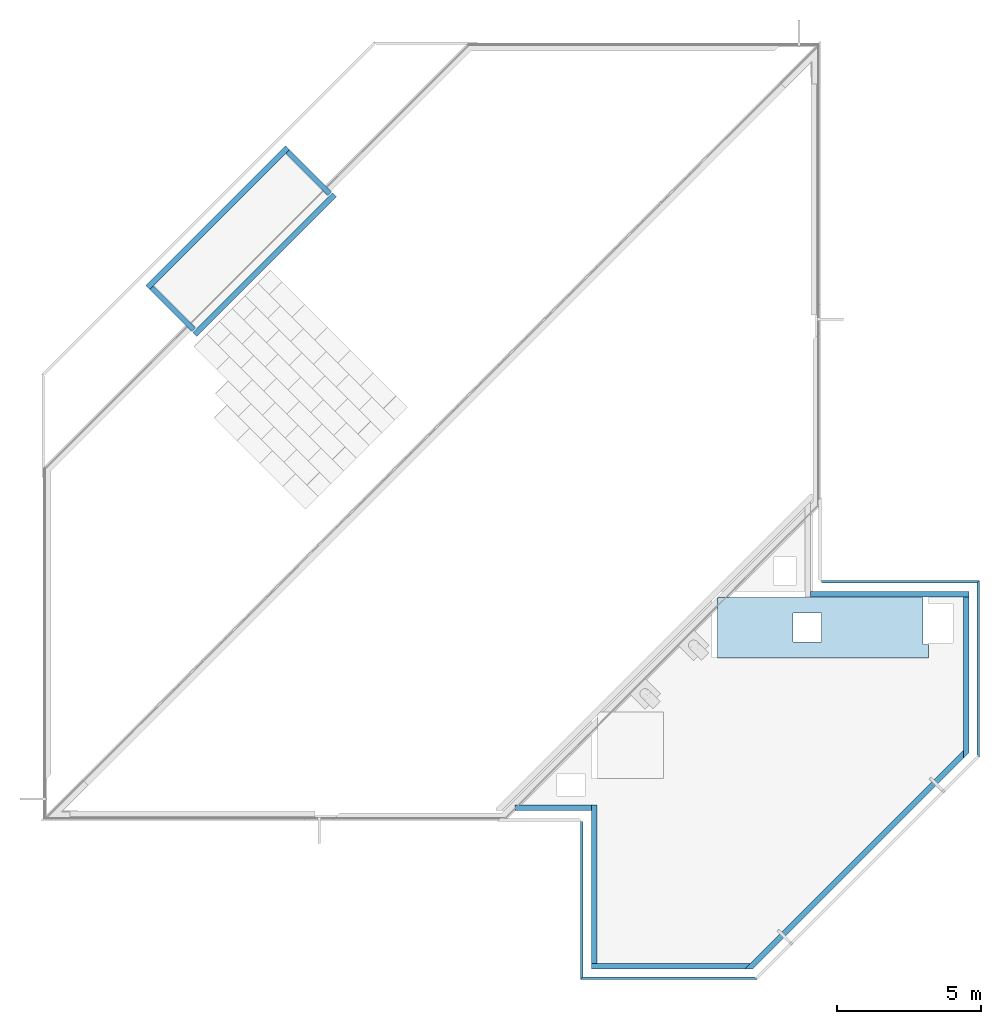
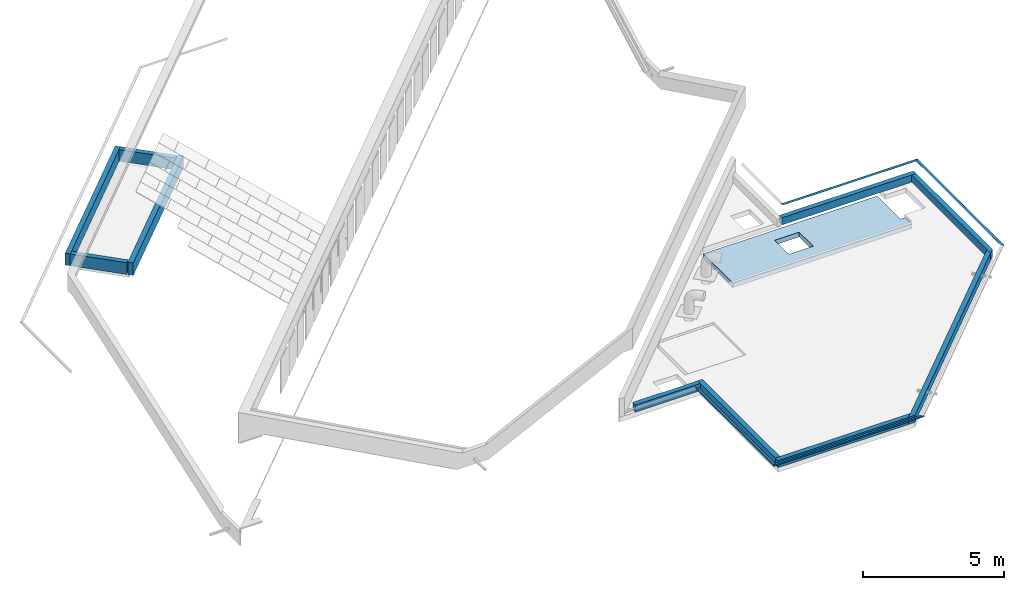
# One storey, part 3 of 8: 10 walls, 4 discrete accessories, 1 slab.
"""IFC4X3_ADD2 building model written with IfcOpenShell, lengths in millimetres."""

from ifc_helpers import new_model, si_unit, direction, frame, frame_2d, origin_with_axes, origin_2d_with_axis, place, context, subcontext, project, spatial, polyline, rectangle, outline, extrude, faceted_brep, polygons, source, transform, mapped, material, type_object, element, save


model = new_model("IFC4X3_ADD2")

# Units and contexts
model_context = context("Model", 3, precision=1e-05, world=origin_with_axes(), true_north=direction((0.0, 1.0)))
body_context = subcontext(model_context, "Body", "Model", "MODEL_VIEW")
ifc_project = project(units=[si_unit("LENGTHUNIT", "METRE", prefix="MILLI"), si_unit("AREAUNIT", "SQUARE_METRE"), si_unit("VOLUMEUNIT", "CUBIC_METRE"), si_unit("PLANEANGLEUNIT", "RADIAN"), si_unit("TIMEUNIT", "SECOND"), si_unit("MASSUNIT", "GRAM")], contexts=[model_context])

# Site, building, storey
site_placement = place(None, origin_with_axes())
site = spatial("IfcSite", under=ifc_project, at=site_placement, Name="Site", CompositionType="ELEMENT")
building_placement = place(site_placement, origin_with_axes())
building = spatial("IfcBuilding", under=site, at=building_placement, Name="IFC Building Story")
storey_placement = place(building_placement, frame((0.0, 0.0, 17050.0), z_axis=(0.0, 0.0, 1.0), x_axis=(1.0, 0.0, 0.0)))
storey = spatial("IfcBuildingStorey", under=building, at=storey_placement, Name="050", Elevation=17050.0)

# Slab
ifc_material_1 = material(Name="BB_Beton_Bestaand")
slab_type = type_object("IfcSlabType", Name="BB_Beton_Bestaand 200", PredefinedType="FLOOR", material=ifc_material_1)
slab_placement = place(storey_placement, frame((-15724.99999999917, 17799.99999999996, -350.0), z_axis=(0.0, 0.0, 1.0), x_axis=(1.0, 0.0, 0.0)))
element("IfcSlab", 1, at=slab_placement, inside=storey, type_object=slab_type, Name="Floor:BB_XX_Vloer uit beton, 200 mm", ObjectType="Floor:BB_XX_Vloer uit beton, 200 mm", PredefinedType="FLOOR", context=body_context, shape_type="Brep", body=[
    faceted_brep([(0.0, -3.979039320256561e-12, 200.0), (4.547473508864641e-12, 2099.99999999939, 200.0), (4.547473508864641e-12, 2099.99999999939, 0.0), (0.0, 0.0, 0.0), (7125.000000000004, 2099.999999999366, 200.0), (7125.000000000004, 2099.999999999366, 0.0), (7125.0, 460.0000000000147, 200.0), (7125.0, 460.0000000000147, 0.0), (7325.0, 460.0000000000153, 200.0), (7325.0, 460.0000000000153, 0.0), (7325.0, -1.70530256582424e-12, 200.0), (7325.0, -1.70530256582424e-12, 0.0), (3610.000000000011, 549.9999999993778, 200.0), (3610.000000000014, 1549.999999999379, 200.0), (3610.000000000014, 1549.999999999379, 0.0), (3610.000000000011, 549.9999999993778, 0.0), (2610.000000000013, 1549.999999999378, 200.0), (2610.000000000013, 1549.999999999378, 0.0), (2610.000000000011, 549.9999999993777, 200.0), (2610.000000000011, 549.9999999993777, 0.0)], [[[0, 1, 2, 3]], [[1, 4, 5, 2]], [[4, 6, 7, 5]], [[6, 8, 9, 7]], [[8, 10, 11, 9]], [[10, 0, 3, 11]], [[12, 13, 14, 15]], [[13, 16, 17, 14]], [[16, 18, 19, 17]], [[18, 12, 15, 19]], [[13, 12, 18, 16], [1, 0, 10, 8, 6, 4]], [[19, 15, 14, 17], [11, 3, 2, 5, 7, 9]]], outer=[[True], [True], [True], [True], [True], [True], [True], [True], [True], [True], [False, True], [False, True]]),
])

# Walls
wall_type_1 = type_object("IfcWallType", Name="BB_Beton_Bestaand 200", PredefinedType="NOTDEFINED", material=ifc_material_1)
wall_1_placement = place(storey_placement, origin_with_axes())
element("IfcWall", 2, at=wall_1_placement, inside=storey, type_object=wall_type_1, Name="Basic Wall:BB_XX_Wand uit beton, 200 mm", ObjectType="Basic Wall:BB_XX_Wand uit beton, 200 mm", PredefinedType="SOLIDWALL", context=body_context, shape_type="SweptSolid", body=[
    extrude(rectangle(XDim=6870.000000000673, YDim=199.9999999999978, at=frame_2d((0.0, 0.0), x_axis=(0.7071067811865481, 0.7071067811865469))), frame((-31450.86219713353, 31450.86219713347, -250.0), z_axis=(0.0, 0.0, 1.0), x_axis=(1.0, 0.0, 0.0)), (0.0, 0.0, 1.0), 539.9999999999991),
])
ifc_material_2 = material(Name="BB_Metselwerk_Betonsteen")
wall_type_2 = type_object("IfcWallType", Name="BB_Metselwerk_Betonsteen 190", PredefinedType="NOTDEFINED", material=ifc_material_2)
wall_2_placement = place(storey_placement, origin_with_axes())
element("IfcWall", 3, at=wall_2_placement, inside=storey, type_object=wall_type_2, Name="Basic Wall:BB_03.09.24#03_Wand uit metselwerk, 190 mm", ObjectType="Basic Wall:BB_03.09.24#03_Wand uit metselwerk, 190 mm", PredefinedType="SOLIDWALL", context=body_context, shape_type="SweptSolid", body=[
    extrude(rectangle(XDim=6870.000000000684, YDim=190.0000000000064, at=frame_2d((0.0, 0.0), x_axis=(0.7071067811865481, 0.7071067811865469))), frame((-33080.74332776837, 33080.74332776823, -250.0), z_axis=(0.0, 0.0, 1.0), x_axis=(1.0, 0.0, 0.0)), (0.0, 0.0, 1.0), 510.000000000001),
])
wall_3_placement = place(storey_placement, origin_with_axes())
element("IfcWall", 4, at=wall_3_placement, inside=storey, type_object=wall_type_2, Name="Basic Wall:BB_03.09.24#03_Wand uit metselwerk, 190 mm", ObjectType="Basic Wall:BB_03.09.24#03_Wand uit metselwerk, 190 mm", PredefinedType="SOLIDWALL", context=body_context, shape_type="SweptSolid", body=[
    extrude(rectangle(XDim=5500.004065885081, YDim=190.0, at=origin_2d_with_axis()), frame((-9750.00203294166, 20005.0, -50.0), z_axis=(0.0, 0.0, 1.0), x_axis=(1.0, 0.0, 0.0)), (0.0, 0.0, 1.0), 309.999999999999),
])
wall_4_placement = place(storey_placement, origin_with_axes())
element("IfcWall", 5, at=wall_4_placement, inside=storey, type_object=wall_type_2, Name="Basic Wall:BB_03.09.24#03_Wand uit metselwerk, 190 mm", ObjectType="Basic Wall:BB_03.09.24#03_Wand uit metselwerk, 190 mm", PredefinedType="SOLIDWALL", context=body_context, shape_type="SweptSolid", body=[
    extrude(outline(polyline([(-95.0, -2842.499999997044), (-95.0, 2747.499999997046), (95.0, 2747.499999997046), (95.0, -2652.499999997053), (-95.0, -2842.499999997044)])), frame((-7095.0, 17162.50000000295, -50.0), z_axis=(0.0, 0.0, 1.0), x_axis=(1.0, 0.0, 0.0)), (0.0, 0.0, 1.0), 309.999999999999),
])
wall_5_placement = place(storey_placement, origin_with_axes())
element("IfcWall", 6, at=wall_5_placement, inside=storey, type_object=wall_type_2, Name="Basic Wall:BB_03.09.24#03_Wand uit metselwerk, 190 mm", ObjectType="Basic Wall:BB_03.09.24#03_Wand uit metselwerk, 190 mm", PredefinedType="SOLIDWALL", context=body_context, shape_type="SweptSolid", body=[
    extrude(outline(polyline([(-3861.525432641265, -3727.175144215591), (3727.175144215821, 3861.525432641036), (3727.175144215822, 3592.824855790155), (-3592.824855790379, -3727.175144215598), (-3861.525432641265, -3727.175144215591)])), frame((-10917.17514421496, 10727.17514421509, -50.0), z_axis=(0.0, 0.0, 1.0), x_axis=(1.0, 0.0, 0.0)), (0.0, 0.0, 1.0), 309.999999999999),
])
wall_6_placement = place(storey_placement, origin_with_axes())
element("IfcWall", 7, at=wall_6_placement, inside=storey, type_object=wall_type_2, Name="Basic Wall:BB_03.09.24#03_Wand uit metselwerk, 190 mm", ObjectType="Basic Wall:BB_03.09.24#03_Wand uit metselwerk, 190 mm", PredefinedType="SOLIDWALL", context=body_context, shape_type="SweptSolid", body=[
    extrude(outline(polyline([(-2713.14971157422, 95.0), (2808.149711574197, 95.0), (2618.149711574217, -95.0), (-2713.149711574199, -95.0), (-2713.14971157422, 95.0)])), frame((-17396.8502884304, 7095.0, -50.0), z_axis=(0.0, 0.0, 1.0), x_axis=(1.0, 0.0, 0.0)), (0.0, 0.0, 1.0), 309.999999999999),
])
wall_7_placement = place(storey_placement, origin_with_axes())
element("IfcWall", 8, at=wall_7_placement, inside=storey, type_object=wall_type_2, Name="Basic Wall:BB_03.09.24#03_Wand uit metselwerk, 190 mm", ObjectType="Basic Wall:BB_03.09.24#03_Wand uit metselwerk, 190 mm", PredefinedType="SOLIDWALL", context=body_context, shape_type="SweptSolid", body=[
    extrude(rectangle(XDim=5500.00406588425, YDim=190.0, at=frame_2d((0.0, 0.0), x_axis=(0.0, 1.0))), frame((-20015.0, 9940.002032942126, -50.0), z_axis=(0.0, 0.0, 1.0), x_axis=(1.0, 0.0, 0.0)), (0.0, 0.0, 1.0), 309.999999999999),
])
wall_8_placement = place(storey_placement, origin_with_axes())
element("IfcWall", 9, at=wall_8_placement, inside=storey, type_object=wall_type_2, Name="Basic Wall:BB_03.09.24#03_Wand uit metselwerk, 190 mm", ObjectType="Basic Wall:BB_03.09.24#03_Wand uit metselwerk, 190 mm", PredefinedType="SOLIDWALL", context=body_context, shape_type="SweptSolid", body=[
    extrude(rectangle(XDim=2655.000000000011, YDim=190.0, at=origin_2d_with_axis()), frame((-21437.5, 12595.0040658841, -50.0), z_axis=(0.0, 0.0, 1.0), x_axis=(1.0, 0.0, 0.0)), (0.0, 0.0, 1.0), 309.999999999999),
])
wall_9_placement = place(storey_placement, origin_with_axes())
element("IfcWall", 10, at=wall_9_placement, inside=storey, type_object=wall_type_2, Name="Basic Wall:BB_03.09.24#03_Wand uit metselwerk, 190 mm", ObjectType="Basic Wall:BB_03.09.24#03_Wand uit metselwerk, 190 mm", PredefinedType="SOLIDWALL", context=body_context, shape_type="SweptSolid", body=[
    extrude(rectangle(XDim=2075.026617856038, YDim=190.0000000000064, at=frame_2d((0.0, 0.0), x_axis=(0.707106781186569, -0.707106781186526))), frame((-34641.67213640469, 29918.1988380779, -250.0), z_axis=(0.0, 0.0, 1.0), x_axis=(1.0, 0.0, 0.0)), (0.0, 0.0, 1.0), 510.000000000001),
])
wall_10_placement = place(storey_placement, origin_with_axes())
element("IfcWall", 11, at=wall_10_placement, inside=storey, type_object=wall_type_2, Name="Basic Wall:BB_03.09.24#03_Wand uit metselwerk, 190 mm", ObjectType="Basic Wall:BB_03.09.24#03_Wand uit metselwerk, 190 mm", PredefinedType="SOLIDWALL", context=body_context, shape_type="SweptSolid", body=[
    extrude(rectangle(XDim=2075.026617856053, YDim=189.9999999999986, at=frame_2d((0.0, 0.0), x_axis=(0.707106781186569, -0.707106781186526))), frame((-29918.1988380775, 34641.6721364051, -250.0), z_axis=(0.0, 0.0, 1.0), x_axis=(1.0, 0.0, 0.0)), (0.0, 0.0, 1.0), 510.000000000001),
])

# Discrete accessories
ifc_material_3 = material(Name="BB_Metaal_Aluminium_Buitenschrijnwerk")
shared_shape_1 = source(origin_with_axes(), body_context, "Body", "Tessellation", [
    polygons([(2.0, 2.0, 44.9888268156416), (2.0, 2.0, 5.0029122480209), (8.10150784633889, 8.10150784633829, 11.4146481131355), (9.51615595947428, 9.51615595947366, 10.0), (0.0, 0.0, 0.0), (0.0, 0.0, 59.9888268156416), (10.0, 10.0, 59.9888268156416), (10.0, 10.0, 57.9888268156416), (2.0, 2.0, 57.9888268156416), (2.0, 2.0, 46.9888268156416), (100.0, 100.0, 46.9888268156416), (100.0, 100.0, 44.9888268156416), (5548.00000000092, 2.0, 5.00291224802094), (5548.00000000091, 2.0, 44.9888268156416), (5450.00000000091, 100.0, 44.9888268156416), (5450.00000000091, 100.0, 46.9888268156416), (5548.00000000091, 2.0, 46.9888268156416), (5548.00000000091, 2.0, 57.9888268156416), (5540.00000000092, 10.0, 57.9888268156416), (5540.00000000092, 10.0, 59.9888268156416), (5550.00000000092, 0.0, 59.9888268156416), (5550.00000000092, 0.0, 0.0), (5540.48384404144, 9.51615595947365, 10.0), (5541.89849215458, 8.10150784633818, 11.4146481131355)], [[[2, 3, 4]], [[2, 4, 5]], [[5, 6, 1]], [[5, 1, 2]], [[10, 11, 12]], [[10, 12, 1]], [[10, 1, 6]], [[6, 9, 10]], [[6, 7, 8]], [[6, 8, 9]], [[18, 19, 20]], [[18, 20, 21]], [[21, 17, 18]], [[21, 14, 17]], [[14, 15, 16]], [[14, 16, 17]], [[21, 22, 13]], [[21, 13, 14]], [[22, 23, 24]], [[22, 24, 13]], [[2, 1, 14, 13]], [[5, 4, 23, 22]], [[3, 2, 13, 24]], [[6, 5, 22, 21]], [[4, 3, 24, 23]], [[7, 6, 21, 20]], [[8, 7, 20, 19]], [[9, 8, 19, 18]], [[10, 9, 18, 17]], [[11, 10, 17, 16]], [[12, 11, 16, 15]], [[1, 12, 15, 14]]]),
])
for number, where, z_axis, x_axis in (
    (12, (-20490.0, 12180.0, 360.0055865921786), (0.0, 0.0, 1.0), (0.0, -1.0, 0.0)),
    (13, (-6630.0, 20490.0, 360.0055865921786), (0.0, 0.0, 1.0), (-1.0, 0.0, 0.0)),
):
    element("IfcDiscreteAccessory", number, at=place(storey_placement, frame(where, z_axis=z_axis, x_axis=x_axis)), inside=storey, material=ifc_material_3, Name="BB_05.10_Dakrandprofiel, 60 mm_GLI:XX_Geen", ObjectType="BB_05.10_Dakrandprofiel, 60 mm_GLI:XX_Geen", PredefinedType="USERDEFINED", context=body_context, shape_type="MappedRepresentation", body=[
        mapped(shared_shape_1, transform((0.0, 0.0, 0.0))),
    ])
shared_shape_2 = source(origin_with_axes(), body_context, "Body", "Tessellation", [
    polygons([(1.99999999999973, 2.0, 44.9888268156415), (2.0, 2.0, 5.00291224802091), (8.10150784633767, 8.10150784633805, 11.4146481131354), (9.51615595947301, 9.51615595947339, 10.0), (0.0, 0.0, 0.0), (0.0, 0.0, 59.9888268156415), (9.99999999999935, 9.99999999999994, 59.9888268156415), (9.99999999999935, 9.99999999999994, 57.9888268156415), (2.0, 2.0, 57.9888268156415), (2.0, 2.0, 46.9888268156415), (100.0, 100.0, 46.9888268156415), (100.0, 100.0, 44.9888268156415), (6148.83261120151, 1.99999999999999, 5.00291224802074), (6148.83261120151, 1.99999999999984, 44.9888268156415), (6050.83261120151, 100.0, 44.9888268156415), (6050.83261120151, 100.0, 46.9888268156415), (6148.83261120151, 1.99999999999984, 46.9888268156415), (6148.83261120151, 1.99999999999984, 57.9888268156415), (6140.83261120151, 9.99999999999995, 57.9888268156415), (6140.83261120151, 9.99999999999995, 59.9888268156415), (6150.83261120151, 0.0, 59.9888268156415), (6150.83261120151, 0.0, 0.0), (6141.31645524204, 9.51615595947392, 9.99999999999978), (6142.73110335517, 8.10150784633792, 11.4146481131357)], [[[2, 3, 4]], [[2, 4, 5]], [[5, 6, 1]], [[5, 1, 2]], [[10, 11, 12]], [[10, 12, 1]], [[10, 1, 6]], [[6, 9, 10]], [[6, 7, 8]], [[6, 8, 9]], [[18, 19, 20]], [[18, 20, 21]], [[21, 17, 18]], [[21, 14, 17]], [[14, 15, 16]], [[14, 16, 17]], [[21, 22, 13]], [[21, 13, 14]], [[22, 23, 24]], [[22, 24, 13]], [[2, 1, 14, 13]], [[5, 4, 23, 22]], [[3, 2, 13, 24]], [[6, 5, 22, 21]], [[4, 3, 24, 23]], [[7, 6, 21, 20]], [[8, 7, 20, 19]], [[9, 8, 19, 18]], [[10, 9, 18, 17]], [[11, 10, 17, 16]], [[12, 11, 16, 15]], [[1, 12, 15, 14]]]),
])
for number, where, z_axis, x_axis in (
    (14, (-20490.0, 6630.0, 360.0055865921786), (0.0, 0.0, 1.0), (1.0, 0.0, 0.0)),
    (15, (-6630.0, 14339.1673887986, 360.0055865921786), (0.0, 0.0, 1.0), (0.0, 1.0, 0.0)),
):
    element("IfcDiscreteAccessory", number, at=place(storey_placement, frame(where, z_axis=z_axis, x_axis=x_axis)), inside=storey, material=ifc_material_3, Name="BB_05.10_Dakrandprofiel, 60 mm_GLI:XX_Geen", ObjectType="BB_05.10_Dakrandprofiel, 60 mm_GLI:XX_Geen", PredefinedType="USERDEFINED", context=body_context, shape_type="MappedRepresentation", body=[
        mapped(shared_shape_2, transform((0.0, 0.0, 0.0))),
    ])

save(model, "model.ifc")
